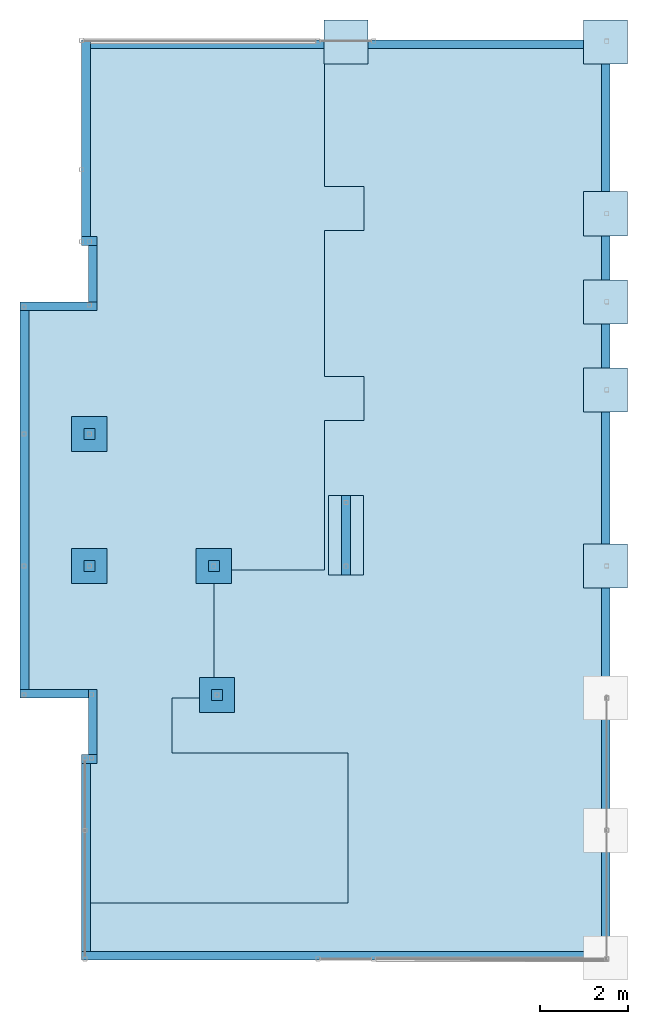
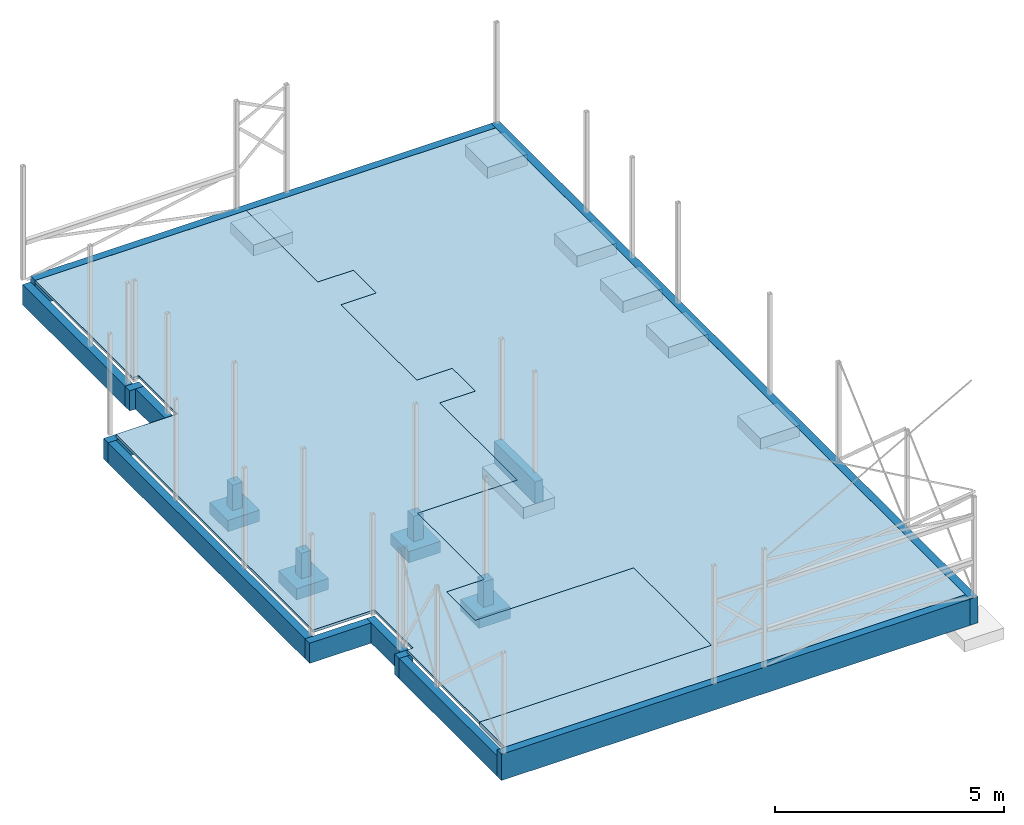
# One storey, part 5 of 5: 13 slabs, 13 walls, 2 openings.
"""IFC2X3 building model written with IfcOpenShell, lengths in millimetres."""

from ifc_helpers import new_model, entity, si_unit, converted_unit, derived_unit, direction, frame, frame_2d, origin, origin_2d_with_axis, place, context, subcontext, project, spatial, polyline, rectangle, outline, extrude, faceted_brep, material, layer, layer_set, layer_usage, type_object, element, save


model = new_model("IFC2X3")

# Units and contexts
model_context = context("Model", 3, precision=0.01, world=origin(), true_north=direction((6.12303176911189e-17, 1.0)))
body_context = subcontext(model_context, "Body", "Model", "MODEL_VIEW")
ifc_project = project(units=[si_unit("LENGTHUNIT", "METRE", prefix="MILLI"), si_unit("AREAUNIT", "SQUARE_METRE"), si_unit("VOLUMEUNIT", "CUBIC_METRE"), converted_unit("PLANEANGLEUNIT", "DEGREE", entity("IfcRatioMeasure", 0.0174532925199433), si_unit("PLANEANGLEUNIT", "RADIAN"), dimensions=[0, 0, 0, 0, 0, 0, 0]), si_unit("MASSUNIT", "GRAM", prefix="KILO"), derived_unit("MASSDENSITYUNIT", [(si_unit("MASSUNIT", "GRAM", prefix="KILO"), 1), (si_unit("LENGTHUNIT", "METRE"), -3)]), si_unit("TIMEUNIT", "SECOND"), si_unit("FREQUENCYUNIT", "HERTZ"), si_unit("THERMODYNAMICTEMPERATUREUNIT", "DEGREE_CELSIUS"), derived_unit("THERMALTRANSMITTANCEUNIT", [(si_unit("MASSUNIT", "GRAM", prefix="KILO"), 1), (si_unit("THERMODYNAMICTEMPERATUREUNIT", "KELVIN"), -1), (si_unit("TIMEUNIT", "SECOND"), -3)]), derived_unit("VOLUMETRICFLOWRATEUNIT", [(si_unit("LENGTHUNIT", "METRE"), 3), (si_unit("TIMEUNIT", "SECOND"), -1)]), si_unit("ELECTRICCURRENTUNIT", "AMPERE"), si_unit("ELECTRICVOLTAGEUNIT", "VOLT"), si_unit("POWERUNIT", "WATT"), si_unit("FORCEUNIT", "NEWTON", prefix="KILO"), si_unit("ILLUMINANCEUNIT", "LUX"), si_unit("LUMINOUSFLUXUNIT", "LUMEN"), si_unit("LUMINOUSINTENSITYUNIT", "CANDELA"), derived_unit("USERDEFINED", [(si_unit("MASSUNIT", "GRAM", prefix="KILO"), -1), (si_unit("LENGTHUNIT", "METRE"), -2), (si_unit("TIMEUNIT", "SECOND"), 3), (si_unit("LUMINOUSFLUXUNIT", "LUMEN"), 1)]), derived_unit("LINEARVELOCITYUNIT", [(si_unit("LENGTHUNIT", "METRE"), 1), (si_unit("TIMEUNIT", "SECOND"), -1)]), si_unit("PRESSUREUNIT", "PASCAL"), derived_unit("USERDEFINED", [(si_unit("LENGTHUNIT", "METRE"), -2), (si_unit("MASSUNIT", "GRAM", prefix="KILO"), 1), (si_unit("TIMEUNIT", "SECOND"), -2)])], contexts=[model_context])

# Site, building, storey
site_placement = place(None, frame((0.0, 0.0, 101000.0)))
site = spatial("IfcSite", under=ifc_project, at=site_placement, Name="Default", CompositionType="ELEMENT")
building_placement = place(site_placement, origin())
building = spatial("IfcBuilding", under=site, at=building_placement, CompositionType="ELEMENT")
storey_placement = place(building_placement, origin())
storey = spatial("IfcBuildingStorey", under=building, at=storey_placement, Name="01", CompositionType="ELEMENT", Elevation=8.9295595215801e-10)

# Slabs
ifc_material_1 = material(Name="Betong Plasstøpt - B35")
slab_1_placement = place(storey_placement, origin())
element("IfcSlab", 1, at=slab_1_placement, inside=storey, material=ifc_material_1, Name="Punktfundament:Betong 1000x1000x300mm", ObjectType="Punktfundament:Betong 1000x1000x300mm", PredefinedType="FLOOR", context=body_context, shape_type="SweptSolid", body=[
    extrude(rectangle(XDim=999.999999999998, YDim=999.999999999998, at=origin_2d_with_axis()), frame((23086.2644969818, 44317.9507529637, -1000.0), z_axis=(0.0, 0.0, 1.0), x_axis=(-1.0, 0.0, 0.0)), (0.0, 0.0, 1.0), 300.0),
])
slab_2_placement = place(storey_placement, origin())
element("IfcSlab", 2, at=slab_2_placement, inside=storey, material=ifc_material_1, Name="Punktfundament:Betong 1000x1000x300mm", ObjectType="Punktfundament:Betong 1000x1000x300mm", PredefinedType="FLOOR", context=body_context, shape_type="SweptSolid", body=[
    extrude(rectangle(XDim=999.999999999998, YDim=999.999999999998, at=origin_2d_with_axis()), frame((23086.2644969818, 40417.9507529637, -1000.0), z_axis=(0.0, 0.0, 1.0), x_axis=(-1.0, 0.0, 0.0)), (0.0, 0.0, 1.0), 300.0),
])
slab_3_placement = place(storey_placement, origin())
element("IfcSlab", 3, at=slab_3_placement, inside=storey, material=ifc_material_1, Name="Punktfundament:Betong 1000x1000x300mm", ObjectType="Punktfundament:Betong 1000x1000x300mm", PredefinedType="FLOOR", context=body_context, shape_type="SweptSolid", body=[
    extrude(rectangle(XDim=999.999999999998, YDim=999.999999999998, at=origin_2d_with_axis()), frame((23086.2644969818, 38417.9507529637, -1000.0), z_axis=(0.0, 0.0, 1.0), x_axis=(-1.0, 0.0, 0.0)), (0.0, 0.0, 1.0), 300.0),
])
slab_4_placement = place(storey_placement, origin())
element("IfcSlab", 4, at=slab_4_placement, inside=storey, material=ifc_material_1, Name="Punktfundament:Betong 1000x1000x300mm", ObjectType="Punktfundament:Betong 1000x1000x300mm", PredefinedType="FLOOR", context=body_context, shape_type="SweptSolid", body=[
    extrude(rectangle(XDim=999.999999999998, YDim=999.999999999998, at=origin_2d_with_axis()), frame((23086.2644969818, 36417.9507529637, -1000.0), z_axis=(0.0, 0.0, 1.0), x_axis=(-1.0, 0.0, 0.0)), (0.0, 0.0, 1.0), 300.0),
])
slab_5_placement = place(storey_placement, origin())
element("IfcSlab", 5, at=slab_5_placement, inside=storey, material=ifc_material_1, Name="Punktfundament:Betong 1000x1000x300mm", ObjectType="Punktfundament:Betong 1000x1000x300mm", PredefinedType="FLOOR", context=body_context, shape_type="SweptSolid", body=[
    extrude(rectangle(XDim=999.999999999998, YDim=999.999999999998, at=origin_2d_with_axis()), frame((23086.2644969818, 32417.9507529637, -1000.0), z_axis=(0.0, 0.0, 1.0), x_axis=(-1.0, 0.0, 0.0)), (0.0, 0.0, 1.0), 300.0),
])
slab_6_placement = place(storey_placement, origin())
element("IfcSlab", 6, at=slab_6_placement, inside=storey, material=ifc_material_1, Name="Punktfundament:Betong 1000x1000x300mm", ObjectType="Punktfundament:Betong 1000x1000x300mm", PredefinedType="FLOOR", context=body_context, shape_type="SweptSolid", body=[
    extrude(rectangle(XDim=1000.0, YDim=999.999999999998, at=frame_2d((-1.08002495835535e-12, 0.0), x_axis=(1.0, 0.0))), frame((17186.2644969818, 44317.9507529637, -1000.0), z_axis=(0.0, 0.0, 1.0), x_axis=(-1.0, 0.0, 0.0)), (0.0, 0.0, 1.0), 300.0),
])
for number, where, name in (
    (7, (13860.1002454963, 29090.7621155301, -1000.0), "Fundament med knast:800x800x300"),
    (8, (13786.2644969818, 32017.9507529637, -1000.0), "Fundament med knast:800x800x300"),
    (9, (10960.9797660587, 32017.9507529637, -1000.0), "Fundament med knast:800x800x300"),
):
    element("IfcSlab", number, at=place(storey_placement, frame(where)), inside=storey, material=ifc_material_1, Name=name, ObjectType="Fundament med knast:800x800x300", PredefinedType="FLOOR", context=body_context, shape_type="Brep", body=[
        faceted_brep([(800.0, 800.0, 0.0), (800.0, 0.0, 0.0), (0.0, 0.0, 0.0), (0.0, 800.0, 0.0), (800.0, 800.0, 300.0), (800.0, 0.0, 300.0), (0.0, 0.0, 300.0), (0.0, 800.0, 300.0), (525.0, 525.0, 980.0), (275.0, 525.0, 980.0), (275.0, 275.0, 980.0), (525.0, 275.0, 980.0), (525.0, 525.0, 300.0), (275.0, 525.0, 300.0), (275.0, 275.0, 300.0), (525.0, 275.0, 300.0)], [[[0, 1, 2, 3]], [[4, 5, 1, 0]], [[5, 6, 2, 1]], [[6, 7, 3, 2]], [[7, 4, 0, 3]], [[8, 9, 10, 11]], [[9, 8, 12, 13]], [[10, 9, 13, 14]], [[11, 10, 14, 15]], [[8, 11, 15, 12]], [[13, 12, 15, 14], [4, 7, 6, 5]]], outer=[[True], [True], [True], [True], [True], [True], [True], [True], [True], [True], [False, True]]),
    ])
slab_7_placement = place(storey_placement, origin())
element("IfcSlab", 10, at=slab_7_placement, inside=storey, material=ifc_material_1, Name="Punktfundament:1800x800x300", ObjectType="Punktfundament:1800x800x300", PredefinedType="FLOOR", context=body_context, shape_type="SweptSolid", body=[
    extrude(rectangle(XDim=1800.0, YDim=800.0, at=frame_2d((2.1600499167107e-12, 0.0), x_axis=(1.0, 0.0))), frame((17186.2644969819, 33117.9507529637, -1000.0), z_axis=(0.0, 0.0, 1.0), x_axis=(0.0, -1.0, 0.0)), (0.0, 0.0, 1.0), 300.0),
])
ifc_material_2 = material(Name="Betong Plasstøpt - B30")
ifc_layer_1 = layer(ifc_material_2, 70.0)
ifc_material_3 = material(Name="EPS")
ifc_layer_2 = layer(ifc_material_3, 50.0)
ifc_layer_set_1 = layer_set([ifc_layer_1, ifc_layer_2], Name="Floor:BETONG 70+50")
ifc_layer_usage_1 = layer_usage(ifc_layer_set_1, "AXIS3", "POSITIVE", 0.0)
slab_8_placement = place(storey_placement, origin())
element("IfcSlab", 11, at=slab_8_placement, inside=storey, material=ifc_layer_usage_1, Name="Floor:BETONG 70+50", ObjectType="Floor:BETONG 70+50", PredefinedType="FLOOR", context=body_context, shape_type="SweptSolid", body=[
    extrude(outline(polyline([(-9994.41930894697, -5052.26402575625), (-8834.41930894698, -5052.26402575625), (-8834.419308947, 792.447668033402), (-5434.41930894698, 792.4476680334), (-5434.41930894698, -3202.248540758), (-4184.41930894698, -3202.248540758), (-4184.41930894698, -2252.26402575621), (-1273.2229192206, -2252.26402575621), (-1273.22291922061, 262.790353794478), (2117.81496314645, 262.790353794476), (2117.81496314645, 1159.11094430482), (3117.81496314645, 1159.11094430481), (3117.81496314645, 262.790353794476), (6429.84476883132, 262.790353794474), (6429.84476883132, 1159.11094430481), (7429.84476883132, 1159.11094430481), (7429.84476883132, 262.790353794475), (10625.580691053, 262.790353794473), (10625.580691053, 6607.73597424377), (-9994.41930894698, 6607.73597424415), (-9994.41930894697, -5052.26402575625)])), frame((16438.5285227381, 33602.3700619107, 0.0), z_axis=(0.0, 0.0, -1.0), x_axis=(0.0, 1.0, 0.0)), (0.0, 0.0, 1.0), 120.0),
])
slab_9_placement = place(storey_placement, frame((10960.9797660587, 35017.9507529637, -1000.0)))
element("IfcSlab", 12, at=slab_9_placement, inside=storey, material=ifc_material_1, Name="Fundament med knast:800x800x300", ObjectType="Fundament med knast:800x800x300", PredefinedType="FLOOR", context=body_context, shape_type="Brep", body=[
    faceted_brep([(800.0, 800.0, 0.0), (800.0, 0.0, 0.0), (0.0, 0.0, 0.0), (0.0, 800.0, 0.0), (800.0, 800.0, 300.0), (800.0, 0.0, 300.0), (0.0, 0.0, 300.0), (0.0, 800.0, 300.0), (525.0, 525.0, 980.0), (275.0, 525.0, 980.0), (275.0, 275.0, 980.0), (525.0, 275.0, 980.0), (525.0, 525.0, 300.0), (275.0, 525.0, 300.0), (275.0, 275.0, 300.0), (525.0, 275.0, 300.0)], [[[0, 1, 2, 3]], [[4, 5, 1, 0]], [[5, 6, 2, 1]], [[6, 7, 3, 2]], [[7, 4, 0, 3]], [[8, 9, 10, 11]], [[9, 8, 12, 13]], [[10, 9, 13, 14]], [[11, 10, 14, 15]], [[8, 11, 15, 12]], [[13, 12, 15, 14], [4, 7, 6, 5]]], outer=[[True], [True], [True], [True], [True], [True], [True], [True], [True], [True], [False, True]]),
])
ifc_layer_3 = layer(ifc_material_2, 70.0)
ifc_layer_set_2 = layer_set([ifc_layer_3], Name="Floor:BETONG 70")
ifc_layer_usage_2 = layer_usage(ifc_layer_set_2, "AXIS3", "POSITIVE", 0.0)
slab_10_placement = place(storey_placement, origin())
element("IfcSlab", 13, at=slab_10_placement, inside=storey, material=ifc_layer_usage_2, Name="Floor:BETONG 70", ObjectType="Floor:BETONG 70", PredefinedType="FLOOR", context=body_context, shape_type="SweptSolid", body=[
    extrude(outline(polyline([(-4850.2529827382, -4304.81848135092), (3749.7470172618, -4304.81848135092), (3749.7470172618, -2754.81848135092), (5429.74701726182, -2754.81848135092), (5429.74701726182, -2904.81848135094), (9759.74701726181, -2904.81848135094), (9759.74701726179, 2410.23589819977), (6564.0110950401, 2410.23589819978), (6564.0110950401, 3306.55648871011), (5564.0110950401, 3306.55648871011), (5564.0110950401, 2410.23589819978), (2251.98128935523, 2410.23589819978), (2251.98128935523, 3306.55648871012), (1251.98128935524, 3306.55648871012), (1251.98128935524, 2410.23589819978), (-2139.05659301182, 2410.23589819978), (-2139.05659301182, -104.818481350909), (-5050.25298273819, -104.818481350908), (-5050.2529827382, -1054.8029963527), (-6300.25298273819, -1054.8029963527), (-6300.2529827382, 2939.8932124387), (-9700.25298273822, 2939.8932124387), (-9700.2529827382, -2904.81848135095), (-6531.1572966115, -2904.81848135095), (-6531.1572966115, -2754.81848135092), (-4850.2529827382, -2754.81848135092), (-4850.2529827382, -4304.81848135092)])), frame((14291.0829783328, 34468.2037357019, 0.0), z_axis=(0.0, 0.0, -1.0), x_axis=(0.0, 1.0, 0.0)), (0.0, 0.0, 1.0), 70.0),
])

# Walls
ifc_layer_4 = layer(ifc_material_1, 200.0)
ifc_layer_set_3 = layer_set([ifc_layer_4], Name="Basic Wall:OPPKANT B=200, (140)")
ifc_layer_usage_3 = layer_usage(ifc_layer_set_3, "AXIS2", "NEGATIVE", 100.0)
wall_type_1 = type_object("IfcWallType", Name="Basic Wall:OPPKANT B=200, (140)", PredefinedType="STANDARD", material=ifc_layer_set_3)
wall_1_placement = place(storey_placement, frame((23086.2644969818, 44367.9507529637, -700.0), z_axis=(0.0, 0.0, 1.0), x_axis=(0.0, -1.0, 0.0)))
element("IfcWallStandardCase", 14, at=wall_1_placement, inside=storey, type_object=wall_type_1, material=ifc_layer_usage_3, Name="Basic Wall:OPPKANT B=200, (140)", ObjectType="Basic Wall:OPPKANT B=200, (140)", context=body_context, shape_type="SweptSolid", body=[
    extrude(rectangle(XDim=20900.0, YDim=199.999999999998, at=frame_2d((10450.0, 1.442401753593e-12), x_axis=(-1.0, 0.0))), origin(), (0.0, 0.0, 1.0), 700.0),
])
ifc_layer_usage_4 = layer_usage(ifc_layer_set_3, "AXIS2", "NEGATIVE", 100.0)
wall_2_placement = place(storey_placement, frame((22986.2644969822, 23567.9507529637, -700.0), z_axis=(0.0, 0.0, 1.0), x_axis=(-1.0, 0.0, 0.0)))
element("IfcWallStandardCase", 15, at=wall_2_placement, inside=storey, type_object=wall_type_1, material=ifc_layer_usage_4, Name="Basic Wall:OPPKANT B=200, (140)", ObjectType="Basic Wall:OPPKANT B=200, (140)", context=body_context, shape_type="SweptSolid", body=[
    extrude(rectangle(XDim=11800.0000000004, YDim=199.999999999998, at=frame_2d((5900.0000000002, -3.19744231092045e-13), x_axis=(-1.0, 0.0))), origin(), (0.0, 0.0, 1.0), 700.0),
])
ifc_layer_usage_5 = layer_usage(ifc_layer_set_3, "AXIS2", "NEGATIVE", 100.0)
wall_3_placement = place(storey_placement, frame((11286.2644969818, 23667.9507529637, -700.0), z_axis=(0.0, 0.0, 1.0), x_axis=(0.0, 1.0, 0.0)))
element("IfcWallStandardCase", 16, at=wall_3_placement, inside=storey, type_object=wall_type_1, material=ifc_layer_usage_5, Name="Basic Wall:OPPKANT B=200, (140)", ObjectType="Basic Wall:OPPKANT B=200, (140)", context=body_context, shape_type="SweptSolid", body=[
    extrude(rectangle(XDim=4269.09568612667, YDim=199.999999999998, at=frame_2d((2134.54784306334, -3.97903932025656e-13), x_axis=(-1.0, 0.0))), origin(), (0.0, 0.0, 1.0), 540.0),
])

# Wall, opening
ifc_layer_usage_6 = layer_usage(ifc_layer_set_3, "AXIS2", "NEGATIVE", 100.0)
wall_4_placement = place(storey_placement, frame((11436.2644969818, 28137.0464390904, -700.0), z_axis=(0.0, 0.0, 1.0), x_axis=(0.0, 1.0, 0.0)))
wall_4 = element("IfcWallStandardCase", 17, at=wall_4_placement, inside=storey, type_object=wall_type_1, material=ifc_layer_usage_6, Name="Basic Wall:OPPKANT B=200, (140)", ObjectType="Basic Wall:OPPKANT B=200, (140)", context=body_context, shape_type="SweptSolid", body=[
    extrude(rectangle(XDim=1480.9043138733, YDim=199.999999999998, at=frame_2d((740.45215693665, 0.0), x_axis=(-1.0, 0.0))), origin(), (0.0, 0.0, 1.0), 540.0),
])
opening_1_placement = place(wall_4_placement, frame((-4469.09568612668, 110.0, 420.0)))
element("IfcOpeningElement", 18, at=opening_1_placement, cuts=wall_4, Name="Basic Wall:OPPKANT B=200, (140)", ObjectType="Opening", context=body_context, shape_type="Brep", body=[
    faceted_brep([(0.0, 0.0, 0.0), (0.0, -60.0, 0.0), (0.0, -60.0, 120.0), (0.0, 0.0, 120.0), (4329.09568612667, 0.0, 0.0), (4329.09568612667, 0.0, 120.0), (4269.09568612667, -60.0, 120.0), (4269.09568612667, -60.0, 0.0)], [[[0, 1, 2, 3]], [[4, 5, 6, 7]], [[1, 0, 4, 7]], [[2, 1, 7, 6]], [[3, 2, 6, 5]], [[0, 3, 5, 4]]]),
])

# Walls
ifc_layer_usage_7 = layer_usage(ifc_layer_set_3, "AXIS2", "NEGATIVE", 100.0)
wall_5_placement = place(storey_placement, frame((11186.2644969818, 28037.0464390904, -700.0)))
element("IfcWallStandardCase", 19, at=wall_5_placement, inside=storey, type_object=wall_type_1, material=ifc_layer_usage_7, Name="Basic Wall:OPPKANT B=200, (140)", ObjectType="Basic Wall:OPPKANT B=200, (140)", context=body_context, shape_type="SweptSolid", body=[
    extrude(rectangle(XDim=350.000000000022, YDim=199.999999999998, at=frame_2d((175.000000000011, 0.0), x_axis=(-1.0, 0.0))), origin(), (0.0, 0.0, 1.0), 540.0),
])
ifc_layer_usage_8 = layer_usage(ifc_layer_set_3, "AXIS2", "NEGATIVE", 100.0)
wall_6_placement = place(storey_placement, frame((9886.26449698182, 29617.9507529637, -700.0), z_axis=(0.0, 0.0, 1.0), x_axis=(0.0, 1.0, 0.0)))
element("IfcWallStandardCase", 20, at=wall_6_placement, inside=storey, type_object=wall_type_1, material=ifc_layer_usage_8, Name="Basic Wall:OPPKANT B=200, (140)", ObjectType="Basic Wall:OPPKANT B=200, (140)", context=body_context, shape_type="SweptSolid", body=[
    extrude(rectangle(XDim=8600.0, YDim=199.999999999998, at=frame_2d((4300.0, -3.33955085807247e-13), x_axis=(-1.0, 0.0))), origin(), (0.0, 0.0, 1.0), 540.0),
])
ifc_layer_usage_9 = layer_usage(ifc_layer_set_3, "AXIS2", "NEGATIVE", 100.0)
wall_7_placement = place(storey_placement, frame((9786.26449698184, 38317.9507529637, -700.0)))
element("IfcWallStandardCase", 21, at=wall_7_placement, inside=storey, type_object=wall_type_1, material=ifc_layer_usage_9, Name="Basic Wall:OPPKANT B=200, (140)", ObjectType="Basic Wall:OPPKANT B=200, (140)", context=body_context, shape_type="SweptSolid", body=[
    extrude(rectangle(XDim=1750.00000000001, YDim=199.999999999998, at=frame_2d((875.000000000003, 2.8421709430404e-13), x_axis=(-1.0, 0.0))), origin(), (0.0, 0.0, 1.0), 540.0),
])
ifc_layer_usage_10 = layer_usage(ifc_layer_set_3, "AXIS2", "NEGATIVE", 100.0)
wall_8_placement = place(storey_placement, frame((11336.2644969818, 29517.9507529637, -700.0), z_axis=(0.0, 0.0, 1.0), x_axis=(-1.0, 0.0, 0.0)))
element("IfcWallStandardCase", 22, at=wall_8_placement, inside=storey, type_object=wall_type_1, material=ifc_layer_usage_10, Name="Basic Wall:OPPKANT B=200, (140)", ObjectType="Basic Wall:OPPKANT B=200, (140)", context=body_context, shape_type="SweptSolid", body=[
    extrude(rectangle(XDim=1550.0, YDim=199.999999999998, at=frame_2d((775.0, 3.26849658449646e-13), x_axis=(-1.0, 0.0))), origin(), (0.0, 0.0, 1.0), 540.0),
])
ifc_layer_usage_11 = layer_usage(ifc_layer_set_3, "AXIS2", "NEGATIVE", 100.0)
wall_9_placement = place(storey_placement, frame((11436.2644969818, 38417.9507529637, -700.0), z_axis=(0.0, 0.0, 1.0), x_axis=(0.0, 1.0, 0.0)))
element("IfcWallStandardCase", 23, at=wall_9_placement, inside=storey, type_object=wall_type_1, material=ifc_layer_usage_11, Name="Basic Wall:OPPKANT B=200, (140)", ObjectType="Basic Wall:OPPKANT B=200, (140)", context=body_context, shape_type="SweptSolid", body=[
    extrude(rectangle(XDim=1280.00000000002, YDim=199.999999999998, at=frame_2d((640.00000000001, 0.0), x_axis=(-1.0, 0.0))), origin(), (0.0, 0.0, 1.0), 540.0),
])
ifc_layer_usage_12 = layer_usage(ifc_layer_set_3, "AXIS2", "NEGATIVE", 100.0)
wall_10_placement = place(storey_placement, frame((11536.2644969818, 39797.9507529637, -700.0), z_axis=(0.0, 0.0, 1.0), x_axis=(-1.0, 0.0, 0.0)))
element("IfcWallStandardCase", 24, at=wall_10_placement, inside=storey, type_object=wall_type_1, material=ifc_layer_usage_12, Name="Basic Wall:OPPKANT B=200, (140)", ObjectType="Basic Wall:OPPKANT B=200, (140)", context=body_context, shape_type="SweptSolid", body=[
    extrude(rectangle(XDim=350.000000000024, YDim=200.000000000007, at=frame_2d((175.000000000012, 0.0), x_axis=(-1.0, 0.0))), origin(), (0.0, 0.0, 1.0), 540.0),
])
ifc_layer_usage_13 = layer_usage(ifc_layer_set_3, "AXIS2", "NEGATIVE", 100.0)
wall_11_placement = place(storey_placement, frame((11286.2644969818, 39897.9507529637, -700.0), z_axis=(0.0, 0.0, 1.0), x_axis=(0.0, 1.0, 0.0)))
element("IfcWallStandardCase", 25, at=wall_11_placement, inside=storey, type_object=wall_type_1, material=ifc_layer_usage_13, Name="Basic Wall:OPPKANT B=200, (140)", ObjectType="Basic Wall:OPPKANT B=200, (140)", context=body_context, shape_type="SweptSolid", body=[
    extrude(rectangle(XDim=4469.99999999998, YDim=199.999999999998, at=frame_2d((2234.99999999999, -2.27373675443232e-13), x_axis=(-1.0, 0.0))), origin(), (0.0, 0.0, 1.0), 540.0),
])

# Wall, opening
ifc_layer_usage_14 = layer_usage(ifc_layer_set_3, "AXIS2", "NEGATIVE", 100.0)
wall_12_placement = place(storey_placement, frame((11286.2644969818, 44267.9507529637, -700.0)))
wall_12 = element("IfcWallStandardCase", 26, at=wall_12_placement, inside=storey, type_object=wall_type_1, material=ifc_layer_usage_14, Name="Basic Wall:OPPKANT B=200, (140)", ObjectType="Basic Wall:OPPKANT B=200, (140)", context=body_context, shape_type="SweptSolid", body=[
    extrude(rectangle(XDim=11600.0, YDim=199.999999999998, at=frame_2d((5900.00000000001, 4.04298816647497e-12), x_axis=(-1.0, 0.0))), origin(), (0.0, 0.0, 1.0), 700.0),
])
opening_2_placement = place(wall_12_placement, frame((40.0, -4430.0, 420.0)))
element("IfcOpeningElement", 27, at=opening_2_placement, cuts=wall_12, Name="Basic Wall:OPPKANT B=200, (140)", ObjectType="Opening", context=body_context, shape_type="Brep", body=[
    faceted_brep([(0.0, 0.0, 0.0), (60.0, 60.0, 0.0), (60.0, 60.0, 120.0), (0.0, 0.0, 120.0), (0.0, 4380.0, 0.0), (0.0, 4380.0, 120.0), (60.0, 4380.0, 120.0), (60.0, 4380.0, 0.0)], [[[0, 1, 2, 3]], [[4, 5, 6, 7]], [[1, 0, 4, 7]], [[2, 1, 7, 6]], [[3, 2, 6, 5]], [[0, 3, 5, 4]]]),
])

# Wall
ifc_layer_5 = layer(ifc_material_1, 200.0)
ifc_layer_set_4 = layer_set([ifc_layer_5], Name="Basic Wall:BETONG 200")
ifc_layer_usage_15 = layer_usage(ifc_layer_set_4, "AXIS2", "NEGATIVE", 100.0)
wall_type_2 = type_object("IfcWallType", Name="Basic Wall:BETONG 200", PredefinedType="STANDARD", material=ifc_layer_set_4)
wall_13_placement = place(storey_placement, frame((17186.2644969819, 32217.9507529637, -700.0), z_axis=(0.0, 0.0, 1.0), x_axis=(0.0, 1.0, 0.0)))
element("IfcWallStandardCase", 28, at=wall_13_placement, inside=storey, type_object=wall_type_2, material=ifc_layer_usage_15, Name="Basic Wall:BETONG 200", ObjectType="Basic Wall:BETONG 200", context=body_context, shape_type="SweptSolid", body=[
    extrude(rectangle(XDim=1800.00000000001, YDim=199.999999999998, at=frame_2d((900.000000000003, 0.0), x_axis=(-1.0, 0.0))), origin(), (0.0, 0.0, 1.0), 580.0),
])

save(model, "model.ifc")
